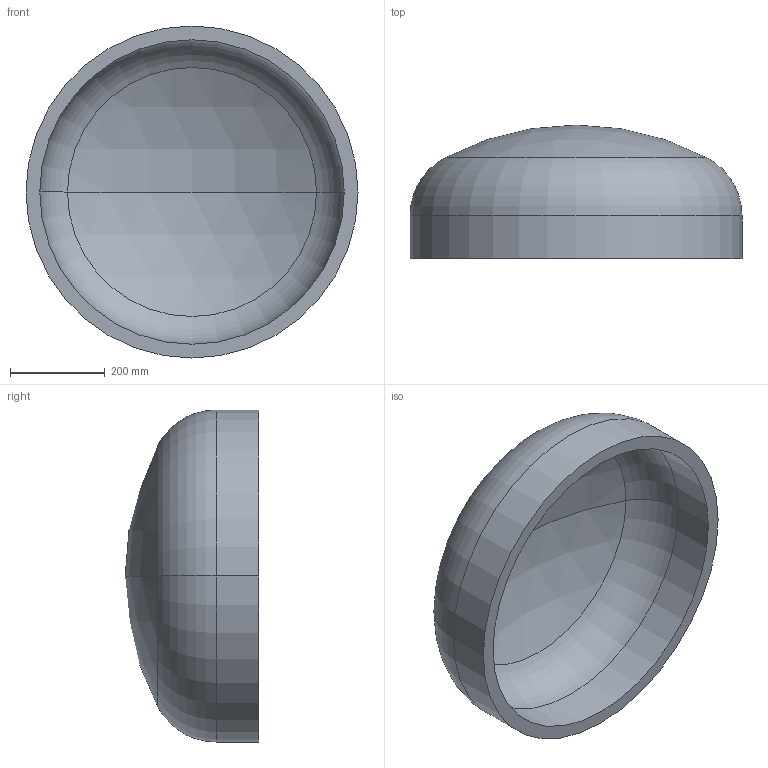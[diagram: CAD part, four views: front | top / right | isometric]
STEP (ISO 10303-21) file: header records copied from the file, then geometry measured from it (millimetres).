
FILE_DESCRIPTION (( 'STEP AP203' ), '1' );
FILE_NAME ('DIN 28013 Korbbogenform_-_Boden DIN 28013 - 700 x 90 - I - s=29.step', '2016-07-01T08:06:18', ( '' ), ( '' ), 'SwSTEP 2.0', 'SolidWorks 2013', '' );
FILE_SCHEMA (( 'CONFIG_CONTROL_DESIGN' ));
Length unit declared in the file: millimetre
Products named in the file (1): DIN 28013 Korbbogenform_-_Boden DIN 28013 - 700 x 90 - I - s=29
Bounding box: 700 x 281.53 x 700 mm (x, y, z)
Volume: 20212896.8 mm3; surface area: 1456886.2 mm2
Topology: 1 solids, 1 shells, 13 faces, 24 edges, 14 vertices
Faces by surface type: torus 4, cylinder 4, sphere 4, plane 1
Entity records: 407 total; most frequent: DIRECTION 72, CARTESIAN_POINT 52, ORIENTED_EDGE 48, AXIS2_PLACEMENT_3D 34, EDGE_CURVE 24, CIRCLE 20, EDGE_LOOP 14, VERTEX_POINT 14
